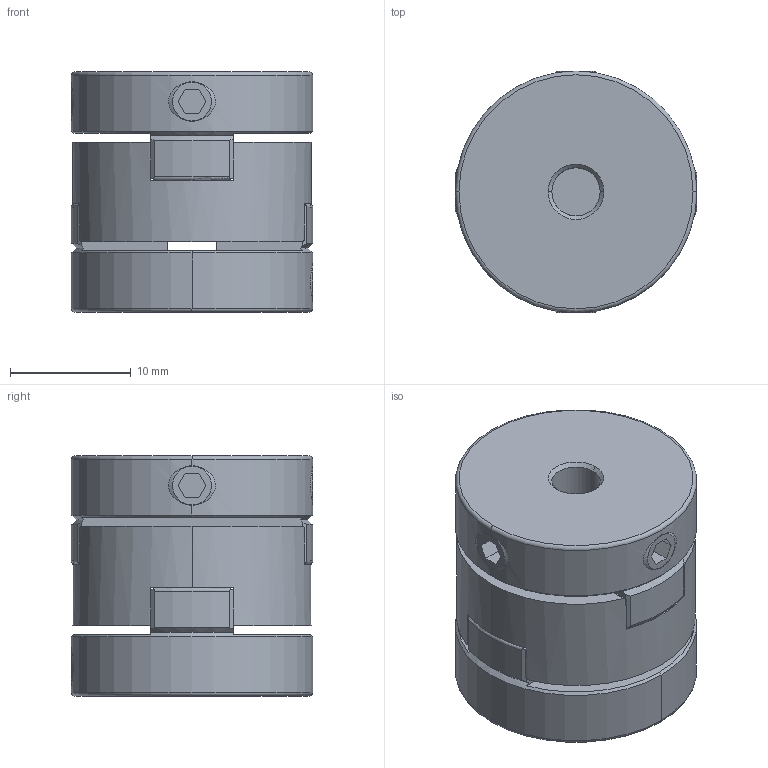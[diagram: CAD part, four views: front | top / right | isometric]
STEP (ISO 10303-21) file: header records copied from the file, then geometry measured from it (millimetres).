
FILE_DESCRIPTION (( 'STEP AP203' ), '1' );
FILE_NAME ('SOH-20-4X8_203.STEP', '2013-01-22T03:12:00', ( 'Z77' ), ( '' ), 'SwSTEP 2.0', 'SolidWorks 2012', '' );
FILE_SCHEMA (( 'CONFIG_CONTROL_DESIGN' ));
Length unit declared in the file: millimetre
Products named in the file (1): SOH-20-4X8_203
Bounding box: 20 x 20 x 19.9 mm (x, y, z)
Volume: 5069.3 mm3; surface area: 3341.4 mm2
Topology: 1 solids, 1 shells, 156 faces, 453 edges, 291 vertices
Faces by surface type: plane 73, cylinder 47, cone 20, sphere 8, torus 8
Entity records: 5705 total; most frequent: CARTESIAN_POINT 1566, ORIENTED_EDGE 906, DIRECTION 797, EDGE_CURVE 453, VERTEX_POINT 291, AXIS2_PLACEMENT_3D 282, LINE 233, VECTOR 233
